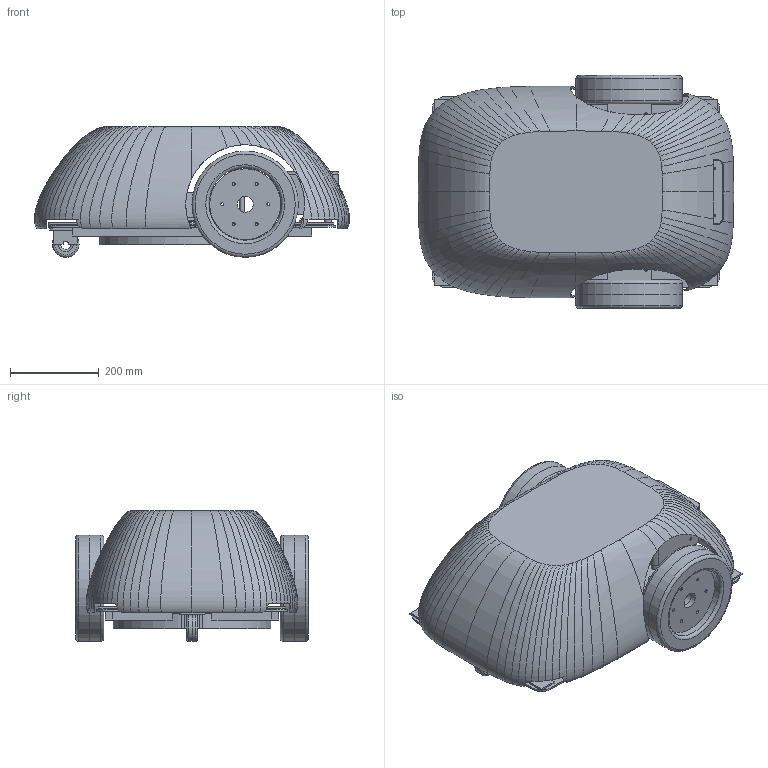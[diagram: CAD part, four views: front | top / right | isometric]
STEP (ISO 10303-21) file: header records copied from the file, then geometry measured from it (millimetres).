
FILE_DESCRIPTION(('Open CASCADE Model'),'2;1');
FILE_NAME('Open CASCADE Shape Model','2026-09-16T16:54:27',('Author'),( 'Open CASCADE'),'Open CASCADE STEP processor 7.8','Open CASCADE 7.8' ,'Unknown');
FILE_SCHEMA(('AUTOMOTIVE_DESIGN { 1 0 10303 214 1 1 1 1 }'));
Length unit declared in the file: millimetre
Products named in the file (28): FWD_weed_laser_mower_manufacturing_concept; upper_cover; lower_chassis_plate; chassis_reinforcement_frame; cover_mounting_flange; left_drive_tire; left_drive_hub; left_wheel_motor_bracket; rear_caster_mount; rear_caster_fork; rear_caster_wheel; cutting_deck_guard; cut_height_carriage; blade_carrier_disc; blade_motor_proxy; cutting_blade_1; cut_height_guide_rod_1; cut_height_lead_screw; laser_pod_standoff_1; laser_pod_body; laser_pod_lid; laser_optical_window; laser_window_retainer; laser_pan_plate; laser_tilt_yoke; laser_emitter_cartridge; laser_pan_servo_proxy; laser_pan_drive_pinion
Assembly tree (38 placements, depth 2):
  FWD_weed_laser_mower_manufacturing_concept
    upper_cover
    lower_chassis_plate
    chassis_reinforcement_frame
    cover_mounting_flange
    left_drive_tire  x2
    left_drive_hub  x2
    left_wheel_motor_bracket  x2
    rear_caster_mount
    rear_caster_fork
    rear_caster_wheel
    cutting_deck_guard
    cut_height_carriage
    blade_carrier_disc
    blade_motor_proxy
    cutting_blade_1  x3
    cut_height_guide_rod_1  x3
    cut_height_lead_screw
    laser_pod_standoff_1  x4
    laser_pod_body
    laser_pod_lid
    laser_optical_window
    laser_window_retainer
    laser_pan_plate
    laser_tilt_yoke
    laser_emitter_cartridge
    laser_pan_servo_proxy  x2
    laser_pan_drive_pinion
Bounding box: 711.84 x 526 x 295 mm (x, y, z)
Volume: 10367011.9 mm3; surface area: 2799780.5 mm2
Topology: 38 solids, 38 shells, 719 faces, 1842 edges, 1214 vertices
Faces by surface type: plane 282, cylinder 275, bspline 150, torus 12
Full cylindrical faces by diameter (mm): 3.2 x4, 4.2 x4, 5.2 x44, 5.5 x9, 6 x2, 6.2 x1, 6.4 x2, 6.6 x24, 8 x3, 8.2 x2, 10 x1, 10.2 x5, 10.6 x2, 12 x3, 16 x7, 17 x4, 20 x1, 22.2 x3, 24 x2, 32 x1, 36 x4, 40 x1, 52 x2, 60 x2, 76 x2, 84 x1, 86 x1, 102 x1, 160 x4, 164 x4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
Entity records: 45487 total; most frequent: CARTESIAN_POINT 15749, DIRECTION 4634, ORIENTED_EDGE 3152, PCURVE 3152, DEFINITIONAL_REPRESENTATION 3152, LINE 2606, VECTOR 2606, EDGE_CURVE 1576
